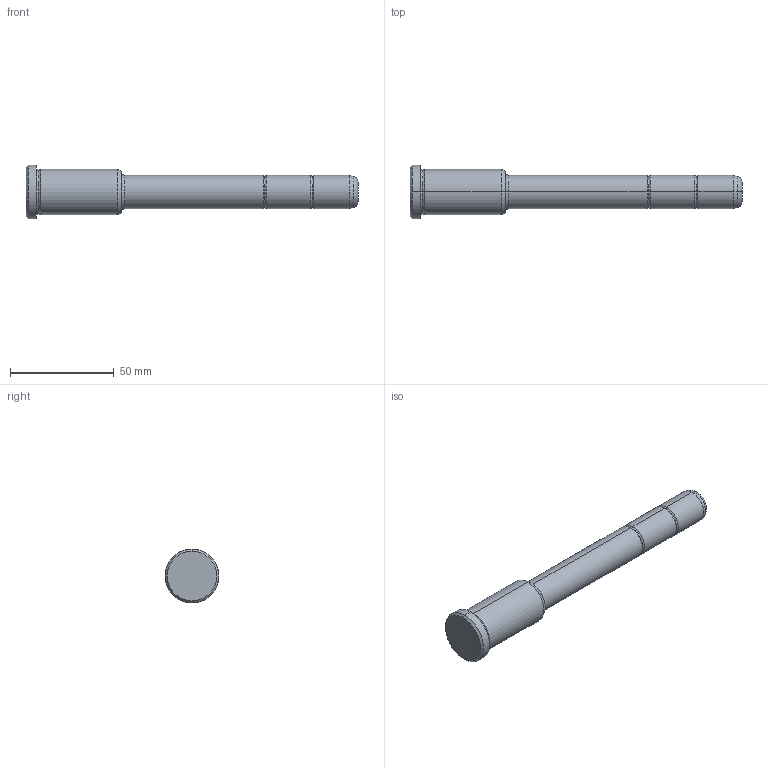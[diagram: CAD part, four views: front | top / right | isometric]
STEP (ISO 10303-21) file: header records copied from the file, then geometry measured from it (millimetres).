
FILE_DESCRIPTION(('CATIA V5 STEP Exchange'),'2;1');
FILE_NAME('C:\Users\Utente\Desktop\IO LAVORO\3D X SITO CF\X SITO\PLASTICA\351\351-16X46X160.stp','2021-08-18T11:40:56+00:00',('none'),('none'),'CATIA Version 5 Release 20 GA (IN-10)','CATIA V5 STEP AP203','none');
FILE_SCHEMA(('CONFIG_CONTROL_DESIGN'));
Length unit declared in the file: millimetre
Products named in the file (1): 351-16X46X160
Bounding box: 160 x 26 x 26 mm (x, y, z)
Volume: 40821.8 mm3; surface area: 9855.6 mm2
Topology: 1 solids, 1 shells, 36 faces, 102 edges, 70 vertices
Faces by surface type: torus 16, cylinder 10, cone 6, plane 4
Entity records: 1292 total; most frequent: CARTESIAN_POINT 321, ORIENTED_EDGE 204, DIRECTION 166, AXIS2_PLACEMENT_3D 115, EDGE_CURVE 102, CIRCLE 78, VERTEX_POINT 70, EDGE_LOOP 38
